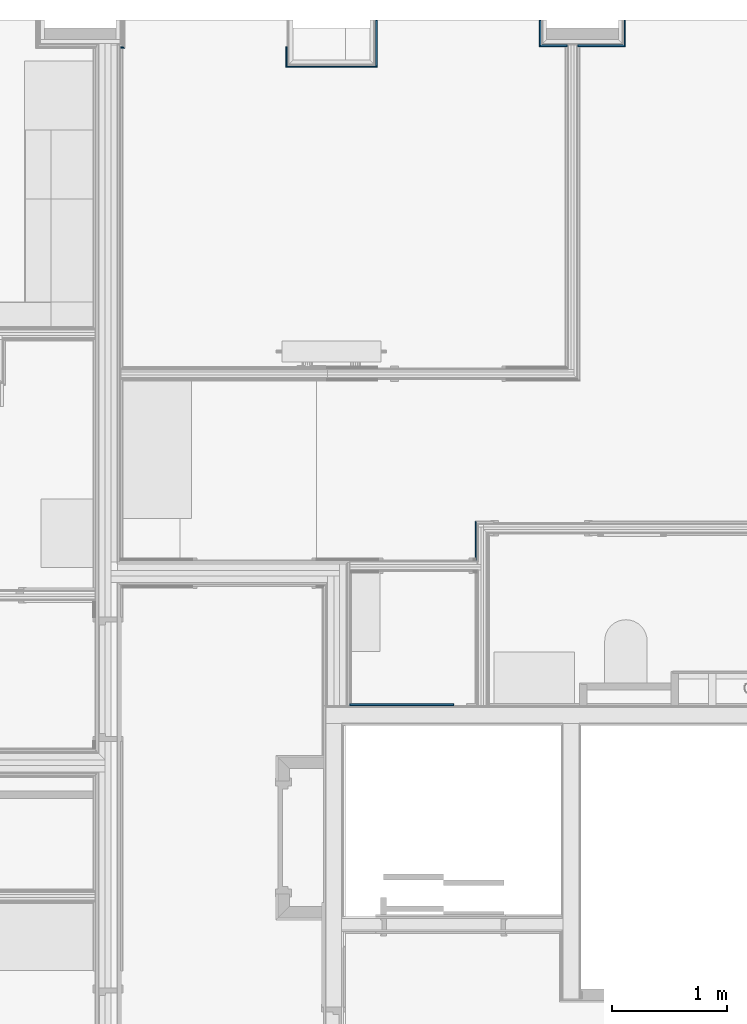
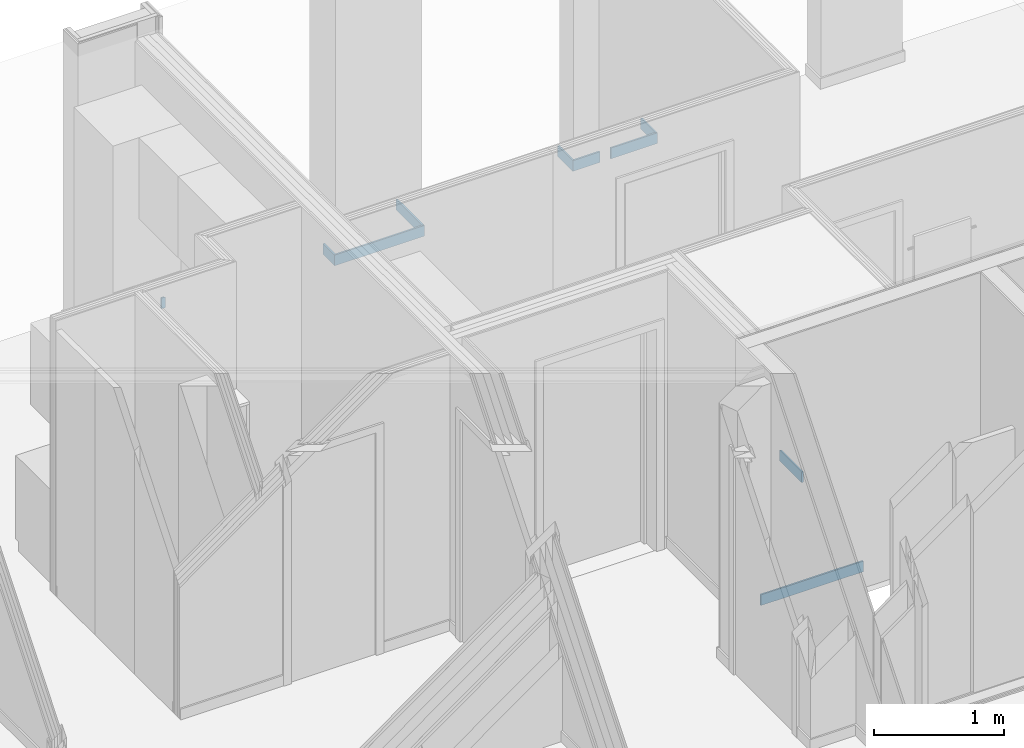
# One storey, part 34 of 85: 10 building element parts, 9 elements without a shape of their own.
"""IFC2X3 building model written with IfcOpenShell, lengths in metres."""

from ifc_helpers import new_model, entity, si_unit, converted_unit, derived_unit, money_unit, direction, frame, frame_2d, origin_with_axes, place, context, subcontext, project, spatial, polyline, rectangle, outline, extrude, material, type_object, element, aggregate, save


model = new_model("IFC2X3")

# Units and contexts
model_context = context("Model", 3, precision=1e-05, world=origin_with_axes(), true_north=direction((0.0, 1.0)))
body_context = subcontext(model_context, "Body", "Model", "MODEL_VIEW", scale=1.0)
ifc_project = project(units=[si_unit("LENGTHUNIT", "METRE"), si_unit("AREAUNIT", "SQUARE_METRE"), si_unit("VOLUMEUNIT", "CUBIC_METRE"), si_unit("ABSORBEDDOSEUNIT", "GRAY"), si_unit("AMOUNTOFSUBSTANCEUNIT", "MOLE"), si_unit("DOSEEQUIVALENTUNIT", "SIEVERT"), si_unit("ELECTRICCAPACITANCEUNIT", "FARAD"), si_unit("ELECTRICCHARGEUNIT", "COULOMB"), si_unit("ELECTRICCONDUCTANCEUNIT", "SIEMENS"), si_unit("ELECTRICCURRENTUNIT", "AMPERE"), si_unit("ELECTRICRESISTANCEUNIT", "OHM"), si_unit("ELECTRICVOLTAGEUNIT", "VOLT"), si_unit("ENERGYUNIT", "JOULE"), si_unit("FORCEUNIT", "NEWTON"), si_unit("FREQUENCYUNIT", "HERTZ"), si_unit("ILLUMINANCEUNIT", "LUX"), si_unit("INDUCTANCEUNIT", "HENRY"), si_unit("LUMINOUSFLUXUNIT", "LUMEN"), si_unit("LUMINOUSINTENSITYUNIT", "CANDELA"), si_unit("MAGNETICFLUXDENSITYUNIT", "TESLA"), si_unit("MAGNETICFLUXUNIT", "WEBER"), si_unit("MASSUNIT", "GRAM"), converted_unit("PLANEANGLEUNIT", "degree", entity("IfcReal", 0.0174532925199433), si_unit("PLANEANGLEUNIT", "RADIAN"), dimensions=[0, 0, 0, 0, 0, 0, 0]), si_unit("POWERUNIT", "WATT"), si_unit("PRESSUREUNIT", "PASCAL"), si_unit("RADIOACTIVITYUNIT", "BECQUEREL"), si_unit("SOLIDANGLEUNIT", "STERADIAN"), si_unit("THERMODYNAMICTEMPERATUREUNIT", "KELVIN"), si_unit("TIMEUNIT", "SECOND"), derived_unit("ACCELERATIONUNIT", [(si_unit("LENGTHUNIT", "METRE"), 1), (si_unit("TIMEUNIT", "SECOND"), -2)]), derived_unit("ANGULARVELOCITYUNIT", [(converted_unit("PLANEANGLEUNIT", "degree", entity("IfcReal", 0.0174532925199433), si_unit("PLANEANGLEUNIT", "RADIAN"), dimensions=[0, 0, 0, 0, 0, 0, 0]), 1), (si_unit("TIMEUNIT", "SECOND"), -1)]), derived_unit("CURVATUREUNIT", [(converted_unit("PLANEANGLEUNIT", "degree", entity("IfcReal", 0.0174532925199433), si_unit("PLANEANGLEUNIT", "RADIAN"), dimensions=[0, 0, 0, 0, 0, 0, 0]), 1), (si_unit("LENGTHUNIT", "METRE"), -1)]), derived_unit("DYNAMICVISCOSITYUNIT", [(si_unit("PRESSUREUNIT", "PASCAL"), 1), (si_unit("TIMEUNIT", "SECOND"), 1)]), derived_unit("HEATFLUXDENSITYUNIT", [(si_unit("POWERUNIT", "WATT"), 1), (si_unit("LENGTHUNIT", "METRE"), -2)]), derived_unit("HEATINGVALUEUNIT", [(si_unit("ENERGYUNIT", "JOULE"), 1), (si_unit("MASSUNIT", "GRAM"), -1)]), derived_unit("INTEGERCOUNTRATEUNIT", [(si_unit("TIMEUNIT", "SECOND"), -1)]), derived_unit("IONCONCENTRATIONUNIT", [(si_unit("MASSUNIT", "GRAM"), 1), (si_unit("VOLUMEUNIT", "CUBIC_METRE"), -1)]), derived_unit("ISOTHERMALMOISTURECAPACITYUNIT", [(si_unit("VOLUMEUNIT", "CUBIC_METRE"), 1), (si_unit("MASSUNIT", "GRAM"), -1)]), derived_unit("KINEMATICVISCOSITYUNIT", [(si_unit("AREAUNIT", "SQUARE_METRE"), 1), (si_unit("TIMEUNIT", "SECOND"), -1)]), derived_unit("LINEARFORCEUNIT", [(si_unit("FORCEUNIT", "NEWTON"), 1), (si_unit("LENGTHUNIT", "METRE"), -1)]), derived_unit("LINEARMOMENTUNIT", [(si_unit("FORCEUNIT", "NEWTON"), 1), (si_unit("LENGTHUNIT", "METRE"), -1)]), derived_unit("LINEARSTIFFNESSUNIT", [(si_unit("FORCEUNIT", "NEWTON"), 1), (si_unit("LENGTHUNIT", "METRE"), -1)]), derived_unit("LINEARVELOCITYUNIT", [(si_unit("LENGTHUNIT", "METRE"), 1), (si_unit("TIMEUNIT", "SECOND"), -1)]), derived_unit("LUMINOUSINTENSITYDISTRIBUTIONUNIT", [(si_unit("LUMINOUSINTENSITYUNIT", "CANDELA"), 1), (si_unit("LUMINOUSFLUXUNIT", "LUMEN"), -1)]), derived_unit("MASSDENSITYUNIT", [(si_unit("MASSUNIT", "GRAM"), 1), (si_unit("VOLUMEUNIT", "CUBIC_METRE"), -1)]), derived_unit("MASSFLOWRATEUNIT", [(si_unit("MASSUNIT", "GRAM"), 1), (si_unit("TIMEUNIT", "SECOND"), -1)]), derived_unit("MASSPERLENGTHUNIT", [(si_unit("MASSUNIT", "GRAM"), 1), (si_unit("LENGTHUNIT", "METRE"), -1)]), derived_unit("MODULUSOFELASTICITYUNIT", [(si_unit("FORCEUNIT", "NEWTON"), 1), (si_unit("AREAUNIT", "SQUARE_METRE"), -1)]), derived_unit("MODULUSOFLINEARSUBGRADEREACTIONUNIT", [(si_unit("FORCEUNIT", "NEWTON"), 1), (si_unit("LENGTHUNIT", "METRE"), -2)]), derived_unit("MODULUSOFROTATIONALSUBGRADEREACTIONUNIT", [(si_unit("FORCEUNIT", "NEWTON"), 1), (si_unit("LENGTHUNIT", "METRE"), 1)]), derived_unit("MODULUSOFSUBGRADEREACTIONUNIT", [(si_unit("FORCEUNIT", "NEWTON"), 1), (si_unit("VOLUMEUNIT", "CUBIC_METRE"), -1)]), derived_unit("MOISTUREDIFFUSIVITYUNIT", [(si_unit("VOLUMEUNIT", "CUBIC_METRE"), 1), (si_unit("TIMEUNIT", "SECOND"), -1)]), derived_unit("MOLECULARWEIGHTUNIT", [(si_unit("MASSUNIT", "GRAM"), 1), (si_unit("AMOUNTOFSUBSTANCEUNIT", "MOLE"), -1)]), derived_unit("PLANARFORCEUNIT", [(si_unit("FORCEUNIT", "NEWTON"), 1), (si_unit("LENGTHUNIT", "METRE"), -2)]), derived_unit("ROTATIONALFREQUENCYUNIT", [(si_unit("TIMEUNIT", "SECOND"), -1)]), derived_unit("ROTATIONALMASSUNIT", [(si_unit("MASSUNIT", "GRAM"), 1), (si_unit("LENGTHUNIT", "METRE"), 2)]), derived_unit("ROTATIONALSTIFFNESSUNIT", [(si_unit("FORCEUNIT", "NEWTON"), 1), (si_unit("LENGTHUNIT", "METRE"), 1), (converted_unit("PLANEANGLEUNIT", "degree", entity("IfcReal", 0.0174532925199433), si_unit("PLANEANGLEUNIT", "RADIAN"), dimensions=[0, 0, 0, 0, 0, 0, 0]), -1)]), derived_unit("SECTIONAREAINTEGRALUNIT", [(si_unit("LENGTHUNIT", "METRE"), 5)]), derived_unit("SECTIONMODULUSUNIT", [(si_unit("LENGTHUNIT", "METRE"), 3)]), derived_unit("SHEARMODULUSUNIT", [(si_unit("FORCEUNIT", "NEWTON"), 1), (si_unit("AREAUNIT", "SQUARE_METRE"), -1)]), derived_unit("SOUNDPOWERUNIT", [(si_unit("ENERGYUNIT", "JOULE"), 1), (si_unit("TIMEUNIT", "SECOND"), -1)]), derived_unit("SPECIFICHEATCAPACITYUNIT", [(si_unit("FORCEUNIT", "NEWTON"), 1), (si_unit("MASSUNIT", "GRAM"), -1), (si_unit("THERMODYNAMICTEMPERATUREUNIT", "KELVIN"), -1)]), derived_unit("TEMPERATUREGRADIENTUNIT", [(si_unit("THERMODYNAMICTEMPERATUREUNIT", "KELVIN"), 1), (si_unit("LENGTHUNIT", "METRE"), -1)]), derived_unit("THERMALADMITTANCEUNIT", [(si_unit("POWERUNIT", "WATT"), 1), (si_unit("AREAUNIT", "SQUARE_METRE"), -1), (si_unit("THERMODYNAMICTEMPERATUREUNIT", "KELVIN"), -1)]), derived_unit("THERMALCONDUCTANCEUNIT", [(si_unit("POWERUNIT", "WATT"), 1), (si_unit("LENGTHUNIT", "METRE"), -1), (si_unit("THERMODYNAMICTEMPERATUREUNIT", "KELVIN"), -1)]), derived_unit("THERMALEXPANSIONCOEFFICIENTUNIT", [(si_unit("THERMODYNAMICTEMPERATUREUNIT", "KELVIN"), -1)]), derived_unit("THERMALRESISTANCEUNIT", [(si_unit("AREAUNIT", "SQUARE_METRE"), 1), (si_unit("POWERUNIT", "WATT"), -1)]), derived_unit("THERMALTRANSMITTANCEUNIT", [(si_unit("POWERUNIT", "WATT"), 1), (si_unit("AREAUNIT", "SQUARE_METRE"), -1), (si_unit("THERMODYNAMICTEMPERATUREUNIT", "KELVIN"), -1)]), derived_unit("TORQUEUNIT", [(si_unit("FORCEUNIT", "NEWTON"), 1), (si_unit("LENGTHUNIT", "METRE"), 1)]), derived_unit("VAPORPERMEABILITYUNIT", [(si_unit("MASSUNIT", "GRAM"), 1), (si_unit("TIMEUNIT", "SECOND"), -1)]), derived_unit("VOLUMETRICFLOWRATEUNIT", [(si_unit("VOLUMEUNIT", "CUBIC_METRE"), 1), (si_unit("TIMEUNIT", "SECOND"), -1)]), derived_unit("WARPINGCONSTANTUNIT", [(si_unit("LENGTHUNIT", "METRE"), 6)]), derived_unit("WARPINGMOMENTUNIT", [(si_unit("FORCEUNIT", "NEWTON"), 1), (si_unit("LENGTHUNIT", "METRE"), 2)]), money_unit("GBP")], contexts=[model_context])

# Site, building, storey
site_placement = place(None, origin_with_axes())
site = spatial("IfcSite", under=ifc_project, at=site_placement, Name="Site", CompositionType="ELEMENT")
building_placement = place(site_placement, origin_with_axes())
building = spatial("IfcBuilding", under=site, at=building_placement, Name="Building01", CompositionType="ELEMENT")
storey_placement = place(building_placement, frame((0.0, 0.0, 12.13), z_axis=(0.0, 0.0, 1.0), x_axis=(1.0, 0.0, 0.0)))
storey = spatial("IfcBuildingStorey", under=building, at=storey_placement, Name="3F", CompositionType="ELEMENT", Elevation=12.13)

# Wall, building element part
wall_type_1 = type_object("IfcWallType", Name="SHE_A-Walls_Type06d_ExternalWallInsulation_48mm", PredefinedType="NOTDEFINED")
wall_1_placement = place(storey_placement, frame((9.46, 14.8, 0.0), z_axis=(0.0, 0.0, 1.0), x_axis=(0.0, -1.0, 0.0)))
wall_1 = element("IfcWall", 1, at=wall_1_placement, inside=storey, type_object=wall_type_1, Name="6D", ObjectType="SHE_A-Walls_Type06d_ExternalWallInsulation_48mm")
ifc_material = material(Name="A_BSUK_Walls_Timber")
building_element_part_1_placement = place(wall_1_placement, origin_with_axes())
building_element_part_1 = element("IfcBuildingElementPart", 2, at=building_element_part_1_placement, material=ifc_material, Name="3", context=body_context, shape_type="SweptSolid", body=[
    extrude(outline(polyline([(0.413, 0.063), (0.0, 0.063), (0.0, 0.048), (0.398, 0.048), (0.413, 0.063)])), frame((0.0, 0.0, 0.015), z_axis=(0.0, 0.0, 1.0), x_axis=(1.0, 0.0, 0.0)), (0.0, 0.0, 1.0), 0.1),
])
aggregate(wall_1, [building_element_part_1])

wall_2_placement = place(storey_placement, frame((9.46, 14.45, 0.0), z_axis=(0.0, 0.0, 1.0), x_axis=(-1.0, 0.0, 0.0)))
wall_2 = element("IfcWall", 3, at=wall_2_placement, inside=storey, type_object=wall_type_1, Name="6D", ObjectType="SHE_A-Walls_Type06d_ExternalWallInsulation_48mm")
building_element_part_2_placement = place(wall_2_placement, origin_with_axes())
building_element_part_2 = element("IfcBuildingElementPart", 4, at=building_element_part_2_placement, material=ifc_material, Name="3", context=body_context, shape_type="SweptSolid", body=[
    extrude(outline(polyline([(0.733, 0.063), (-0.063, 0.063), (-0.048, 0.048), (0.718, 0.048), (0.733, 0.063)])), frame((0.0, 0.0, 0.015), z_axis=(0.0, 0.0, 1.0), x_axis=(1.0, 0.0, 0.0)), (0.0, 0.0, 1.0), 0.1),
])
aggregate(wall_2, [building_element_part_2])

wall_3_placement = place(storey_placement, frame((8.79, 14.45, 0.0), z_axis=(0.0, 0.0, 1.0), x_axis=(0.0, 1.0, 0.0)))
wall_3 = element("IfcWall", 5, at=wall_3_placement, inside=storey, type_object=wall_type_1, Name="6D", ObjectType="SHE_A-Walls_Type06d_ExternalWallInsulation_48mm")
building_element_part_3_placement = place(wall_3_placement, origin_with_axes())
building_element_part_3 = element("IfcBuildingElementPart", 6, at=building_element_part_3_placement, material=ifc_material, Name="3", context=body_context, shape_type="SweptSolid", body=[
    extrude(outline(polyline([(-0.063, 0.063), (-0.048, 0.048), (0.117, 0.048), (0.117, 0.063), (-0.063, 0.063)])), frame((0.0, 0.0, 0.015), z_axis=(0.0, 0.0, 1.0), x_axis=(1.0, 0.0, 0.0)), (0.0, 0.0, 1.0), 0.1),
])
aggregate(wall_3, [building_element_part_3])

wall_4_placement = place(storey_placement, frame((11.627, 14.8, 0.0), z_axis=(0.0, 0.0, 1.0), x_axis=(0.0, -1.0, 0.0)))
wall_4 = element("IfcWall", 7, at=wall_4_placement, inside=storey, type_object=wall_type_1, Name="6D", ObjectType="SHE_A-Walls_Type06d_ExternalWallInsulation_48mm")
building_element_part_4_placement = place(wall_4_placement, origin_with_axes())
building_element_part_4 = element("IfcBuildingElementPart", 8, at=building_element_part_4_placement, material=ifc_material, Name="3", context=body_context, shape_type="SweptSolid", body=[
    extrude(outline(polyline([(0.233, 0.063), (0.0, 0.063), (0.0, 0.048), (0.218, 0.048), (0.233, 0.063)])), frame((0.0, 0.0, 0.015), z_axis=(0.0, 0.0, 1.0), x_axis=(1.0, 0.0, 0.0)), (0.0, 0.0, 1.0), 0.1),
])
aggregate(wall_4, [building_element_part_4])

wall_5_placement = place(storey_placement, frame((11.003, 14.63, 0.0), z_axis=(0.0, 0.0, 1.0), x_axis=(0.0, 1.0, 0.0)))
wall_5 = element("IfcWall", 9, at=wall_5_placement, inside=storey, type_object=wall_type_1, Name="6D", ObjectType="SHE_A-Walls_Type06d_ExternalWallInsulation_48mm")
building_element_part_5_placement = place(wall_5_placement, origin_with_axes())
building_element_part_5 = element("IfcBuildingElementPart", 10, at=building_element_part_5_placement, material=ifc_material, Name="3", context=body_context, shape_type="SweptSolid", body=[
    extrude(outline(polyline([(-0.063, 0.063), (-0.048, 0.048), (0.17, 0.048), (0.17, 0.063), (-0.063, 0.063)])), frame((0.0, 0.0, 0.015), z_axis=(0.0, 0.0, 1.0), x_axis=(1.0, 0.0, 0.0)), (0.0, 0.0, 1.0), 0.1),
])
aggregate(wall_5, [building_element_part_5])

# Wall, building element parts
wall_6_placement = place(storey_placement, frame((11.627, 14.63, 0.0), z_axis=(0.0, 0.0, 1.0), x_axis=(-1.0, 0.0, 0.0)))
wall_6 = element("IfcWall", 11, at=wall_6_placement, inside=storey, type_object=wall_type_1, Name="6D", ObjectType="SHE_A-Walls_Type06d_ExternalWallInsulation_48mm")
placement = place(wall_6_placement, origin_with_axes())
building_element_part_6 = element("IfcBuildingElementPart", 12, at=placement, material=ifc_material, Name="3", context=body_context, shape_type="SweptSolid", body=[
    extrude(outline(polyline([(0.352, 0.063), (-0.063, 0.063), (-0.048, 0.048), (0.352, 0.048), (0.352, 0.063)])), frame((0.0, 0.0, 0.015), z_axis=(0.0, 0.0, 1.0), x_axis=(1.0, 0.0, 0.0)), (0.0, 0.0, 1.0), 0.1),
])
building_element_part_7 = element("IfcBuildingElementPart", 13, at=placement, material=ifc_material, Name="4", context=body_context, shape_type="SweptSolid", body=[
    extrude(outline(polyline([(0.687, 0.063), (0.447, 0.063), (0.447, 0.048), (0.672, 0.048), (0.687, 0.063)])), frame((0.0, 0.0, 0.015), z_axis=(0.0, 0.0, 1.0), x_axis=(1.0, 0.0, 0.0)), (0.0, 0.0, 1.0), 0.1),
])
aggregate(wall_6, [building_element_part_6, building_element_part_7])

# Wall, building element part
wall_type_2 = type_object("IfcWallType", Name="SHE_A-Walls_Type03a_BlockworkWall_170mm", PredefinedType="NOTDEFINED")
wall_7_placement = place(storey_placement, frame((17.985, 8.805, 0.0), z_axis=(0.0, 0.0, 1.0), x_axis=(-1.0, 0.0, 0.0)))
wall_7 = element("IfcWall", 14, at=wall_7_placement, inside=storey, type_object=wall_type_2, Name="4B", ObjectType="SHE_A-Walls_Type03a_BlockworkWall_170mm")
building_element_part_8_placement = place(wall_7_placement, origin_with_axes())
building_element_part_8 = element("IfcBuildingElementPart", 15, at=building_element_part_8_placement, material=ifc_material, Name="4", context=body_context, shape_type="SweptSolid", body=[
    extrude(rectangle(XDim=0.908871, YDim=0.015, at=frame_2d((8.245565, -0.0225), x_axis=(-1.0, 0.0))), frame((0.0, 0.0, 0.015), z_axis=(0.0, 0.0, 1.0), x_axis=(1.0, 0.0, 0.0)), (0.0, 0.0, 1.0), 0.1),
])
aggregate(wall_7, [building_element_part_8])

wall_type_3 = type_object("IfcWallType", Name="SHE_A-Walls_Type05a_Partition_95mm_tall", PredefinedType="NOTDEFINED")
wall_8_placement = place(storey_placement, frame((10.453871, 8.82, 0.0), z_axis=(0.0, 0.0, 1.0), x_axis=(0.0, 1.0, 0.0)))
wall_8 = element("IfcWall", 16, at=wall_8_placement, inside=storey, type_object=wall_type_3, Name="5A", ObjectType="SHE_A-Walls_Type05a_Partition_95mm_tall")
building_element_part_9_placement = place(wall_8_placement, origin_with_axes())
building_element_part_9 = element("IfcBuildingElementPart", 17, at=building_element_part_9_placement, material=ifc_material, Name="9", context=body_context, shape_type="SweptSolid", body=[
    extrude(outline(polyline([(1.61, 0.075), (1.267704, 0.075), (1.267704, 0.06), (1.595, 0.06), (1.61, 0.075)])), frame((0.0, 0.0, 0.015), z_axis=(0.0, 0.0, 1.0), x_axis=(1.0, 0.0, 0.0)), (0.0, 0.0, 1.0), 0.1),
])
aggregate(wall_8, [building_element_part_9])

wall_type_4 = type_object("IfcWallType", Name="SHE_A-Walls_Type06f_ExternalWallInsulation_48+15mm", PredefinedType="NOTDEFINED")
wall_9_placement = place(storey_placement, frame((7.283, 14.63, 0.0), z_axis=(0.0, 0.0, 1.0), x_axis=(-1.0, 0.0, 0.0)))
wall_9 = element("IfcWall", 18, at=wall_9_placement, inside=storey, type_object=wall_type_4, Name="6F", ObjectType="SHE_A-Walls_Type06f_ExternalWallInsulation_48+15mm")
building_element_part_10_placement = place(wall_9_placement, origin_with_axes())
building_element_part_10 = element("IfcBuildingElementPart", 19, at=building_element_part_10_placement, material=ifc_material, Name="6", context=body_context, shape_type="SweptSolid", body=[
    extrude(outline(polyline([(-0.042, 0.078), (-0.027, 0.063), (-0.006669, 0.063), (-0.006669, 0.078), (-0.042, 0.078)])), frame((0.0, 0.0, 0.015), z_axis=(0.0, 0.0, 1.0), x_axis=(1.0, 0.0, 0.0)), (0.0, 0.0, 1.0), 0.1),
])
aggregate(wall_9, [building_element_part_10])

save(model, "model.ifc")
